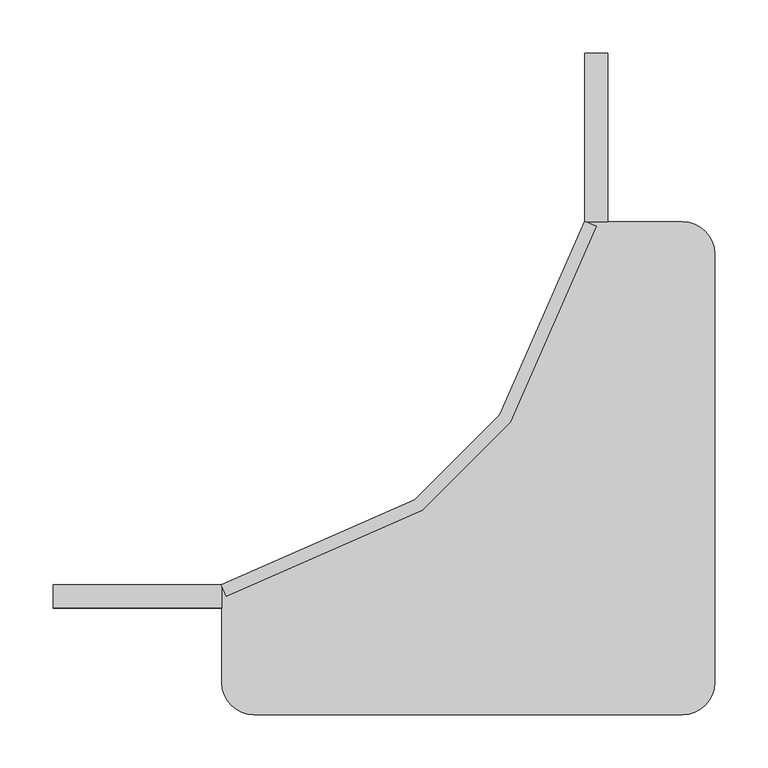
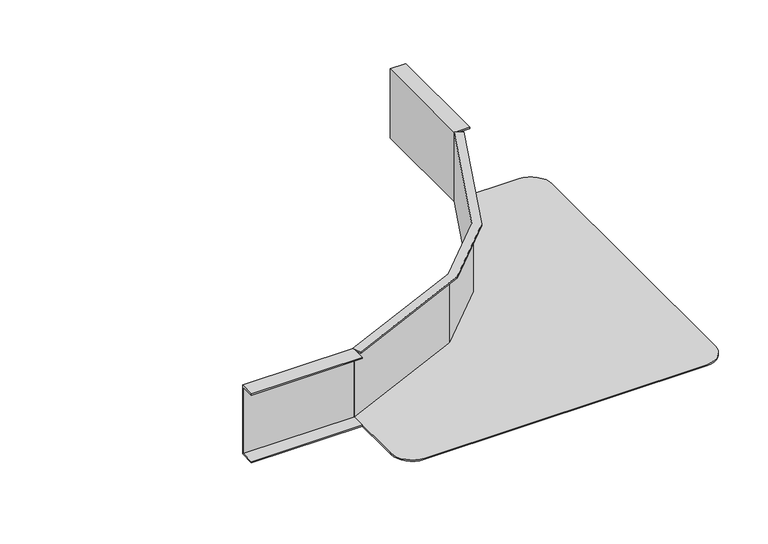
"""IFC4 building model written with IfcOpenShell, lengths in millimetres: cable carrier fitting geometry, BAKS_LDLS_CONN_Inner extension straight connector_LDUW : LDUW_H100."""

from ifc_helpers import new_model, si_unit, point, frame, frame_2d, origin, place, context, project, spatial, polyline, circle_curve, trimmed, segment, composite_curve, outline, extrude, faceted_brep, source, transform, mapped, element, save


def cable_carrier_fitting_74346276(model_context):
    return source(origin(), model_context, "Body", "SolidModel", [
        faceted_brep([(9.1546331, 337.9759855, 52.0), (9.1546331, 337.9759855, 50.0), (0.0, 342.0, 50.0), (0.0, 342.0, -52.0), (-1.8309266, 342.8048029, -52.0), (-1.8309266, 342.8048029, 52.0), (-71.6010438, 154.2568206, 52.0), (-71.6010438, 154.2568206, 50.0), (-154.2568206, 71.6010438, 50.0), (-337.9759855, -9.1546331, 50.0), (-342.0, 0.0, 50.0), (-160.0, 80.0, 50.0), (-80.0, 160.0, 50.0), (-80.0, 160.0, -52.0), (-160.0, 80.0, -52.0), (-342.0, 0.0, -52.0), (-342.8048029, 1.8309266, -52.0), (-161.1486359, 81.6797912, -52.0), (-81.6797912, 161.1486359, -52.0), (-81.6797912, 161.1486359, 52.0), (-161.1486359, 81.6797912, 52.0), (-342.8048029, 1.8309266, 52.0), (-337.9759855, -9.1546331, 52.0), (-154.2568206, 71.6010438, 52.0)], [[[0, 1, 2, 3, 4, 5]], [[1, 0, 6, 7]], [[2, 1, 7, 8, 9, 10, 11, 12]], [[3, 2, 12, 13]], [[4, 3, 13, 14, 15, 16, 17, 18]], [[5, 4, 18, 19]], [[0, 5, 19, 20, 21, 22, 23, 6]], [[7, 6, 23, 8]], [[13, 12, 11, 14]], [[19, 18, 17, 20]], [[22, 21, 16, 15, 10, 9]], [[8, 23, 22, 9]], [[14, 11, 10, 15]], [[20, 17, 16, 21]]]),
        extrude(outline(polyline([(-20.0, 52.0), (2.0, 52.0), (2.0, -52.0), (-20.0, -52.0), (-20.0, -50.0), (0.0, -50.0), (0.0, 50.0), (-20.0, 50.0), (-20.0, 52.0)])), frame((-500.0, 0.0, 0.0), z_axis=(1.0, 0.0, 0.0), x_axis=(0.0, 1.0, 0.0)), (0.0, 0.0, 1.0), 158.0),
        extrude(outline(polyline([(52.0, 20.0), (52.0, -2.0), (-52.0, -2.0), (-52.0, 20.0), (-50.0, 20.0), (-50.0, 0.0), (50.0, 0.0), (50.0, 20.0), (52.0, 20.0)])), frame((0.0, 342.0, 0.0), z_axis=(0.0, 1.0, 0.0), x_axis=(0.0, 0.0, 1.0)), (0.0, 0.0, 1.0), 158.0),
        extrude(outline(composite_curve([segment(polyline([(-80.0, 160.0), (0.0, 342.0), (90.0, 342.0)]), True, "CONTINUOUS"), segment(trimmed(circle_curve(frame_2d((90.0, 312.0)), 30.0), [point((90.0, 342.0))], [point((120.0, 312.0))], False, "CARTESIAN"), True, "CONTINUOUS"), segment(polyline([(120.0, 312.0), (120.0, -90.0)]), True, "CONTINUOUS"), segment(trimmed(circle_curve(frame_2d((90.0, -90.0)), 30.0), [point((120.0, -90.0))], [point((90.0, -120.0))], False, "CARTESIAN"), True, "CONTINUOUS"), segment(polyline([(90.0, -120.0), (-312.0, -120.0)]), True, "CONTINUOUS"), segment(trimmed(circle_curve(frame_2d((-312.0, -90.0)), 30.0), [point((-312.0, -120.0))], [point((-342.0, -90.0))], False, "CARTESIAN"), True, "CONTINUOUS"), segment(polyline([(-342.0, -90.0), (-342.0, 0.0), (-160.0, 80.0), (-80.0, 160.0)]), True, "CONTINUOUS")], self_intersect=False)), frame((0.0, 0.0, -52.0), z_axis=(0.0, 0.0, 1.0), x_axis=(1.0, 0.0, 0.0)), (0.0, 0.0, 1.0), 2.0),
    ])


if __name__ == "__main__":
    model = new_model("IFC4")
    model_context = context("Model", 3, world=origin())
    ifc_project = project(units=[si_unit("LENGTHUNIT", "METRE", prefix="MILLI")], contexts=[model_context])
    site = spatial("IfcSite", under=ifc_project)
    building = spatial("IfcBuilding", under=site)
    placement = place(None, origin())
    cable_carrier_fitting_shape = cable_carrier_fitting_74346276(model_context)
    element("IfcCableCarrierFitting", 1, ObjectType="BAKS_LDLS_CONN_Inner extension straight connector_LDUW : LDUW_H100", at=placement, inside=building, context=model_context, shape_type="MappedRepresentation", body=[
        mapped(cable_carrier_fitting_shape, transform((0.0, 0.0, 0.0), x_axis=(1.0, 0.0, 0.0), y_axis=(0.0, 1.0, 0.0), z_axis=(0.0, 0.0, 1.0))),
    ])
    save(model, "model.ifc")
